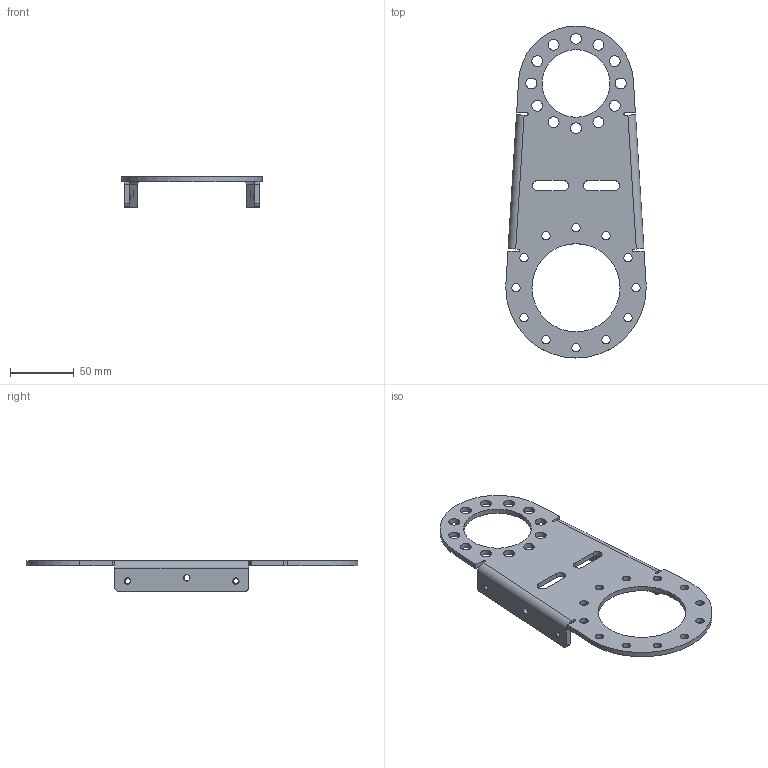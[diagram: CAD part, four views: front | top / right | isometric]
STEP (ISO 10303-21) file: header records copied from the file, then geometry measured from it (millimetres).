
FILE_DESCRIPTION (( 'STEP AP203' ), '1' );
FILE_NAME ('084.821.008.STEP', '2013-01-29T13:16:10', ( 'Alusic' ), ( 'Alusic' ), 'SwSTEP 2.0', 'SolidWorks 2011', '' );
FILE_SCHEMA (( 'CONFIG_CONTROL_DESIGN' ));
Length unit declared in the file: millimetre
Products named in the file (1): 084.821.008
Bounding box: 110 x 260 x 24 mm (x, y, z)
Volume: 80684.2 mm3; surface area: 48075.7 mm2
Topology: 1 solids, 1 shells, 128 faces, 354 edges, 228 vertices
Faces by surface type: cylinder 88, plane 32, cone 8
Entity records: 4363 total; most frequent: DIRECTION 796, CARTESIAN_POINT 711, ORIENTED_EDGE 708, EDGE_CURVE 354, AXIS2_PLACEMENT_3D 313, VERTEX_POINT 228, EDGE_LOOP 196, CIRCLE 184
